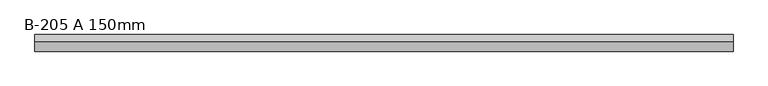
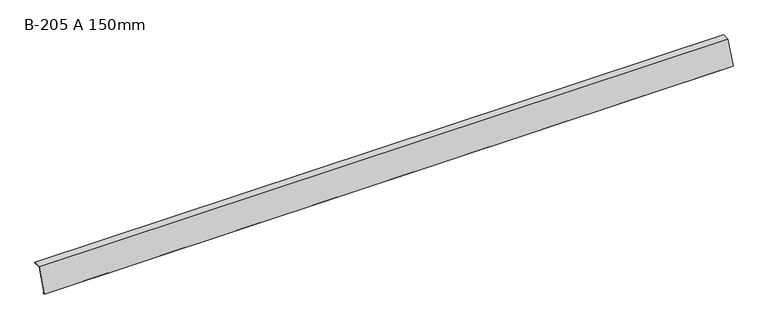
"""IFC4 building model written with IfcOpenShell, lengths in millimetres: proxy geometry, GROVIK_Flashing_Eaves : B-205 A 150mm."""

from ifc_helpers import new_model, si_unit, frame, origin, place, context, project, spatial, polyline, outline, extrude, source, transform, mapped, element, save


def b_205_a_150mm_b27aad1a(model_context):
    return source(origin(), model_context, "Body", "SweptSolid", [
        extrude(outline(polyline([(-0.6918582, 0.9880759), (-54.3292023, -138.7419827), (-44.6262451, -136.3227638), (-44.3843232, -137.2930595), (-55.9512012, -140.1770061), (-1.3837164, 1.9761518), (43.9583938, 2.7676013), (43.9758462, 1.7677536), (-0.6918582, 0.9880759)])), frame((0.0, 0.0, 0.0), z_axis=(1.0, 0.0, 0.0), x_axis=(0.0, 1.0, 0.0)), (0.0, 0.0, 1.0), 4200.0),
    ])


if __name__ == "__main__":
    model = new_model("IFC4")
    model_context = context("Model", 3, world=origin())
    ifc_project = project(units=[si_unit("LENGTHUNIT", "METRE", prefix="MILLI")], contexts=[model_context])
    site = spatial("IfcSite", under=ifc_project)
    building = spatial("IfcBuilding", under=site)
    placement = place(None, origin())
    b_205_a_150mm_shape = b_205_a_150mm_b27aad1a(model_context)
    element("IfcBuildingElementProxy", 1, Name="GROVIK_Flashing_Eaves : B-205 A 150mm", ObjectType="GROVIK_Flashing_Eaves : B-205 A 150mm", at=placement, inside=building, context=model_context, shape_type="MappedRepresentation", body=[
        mapped(b_205_a_150mm_shape, transform((0.0, 0.0, 0.0), x_axis=(1.0, 0.0, 0.0), y_axis=(0.0, 1.0, 0.0), z_axis=(0.0, 0.0, 1.0))),
    ])
    save(model, "model.ifc")
